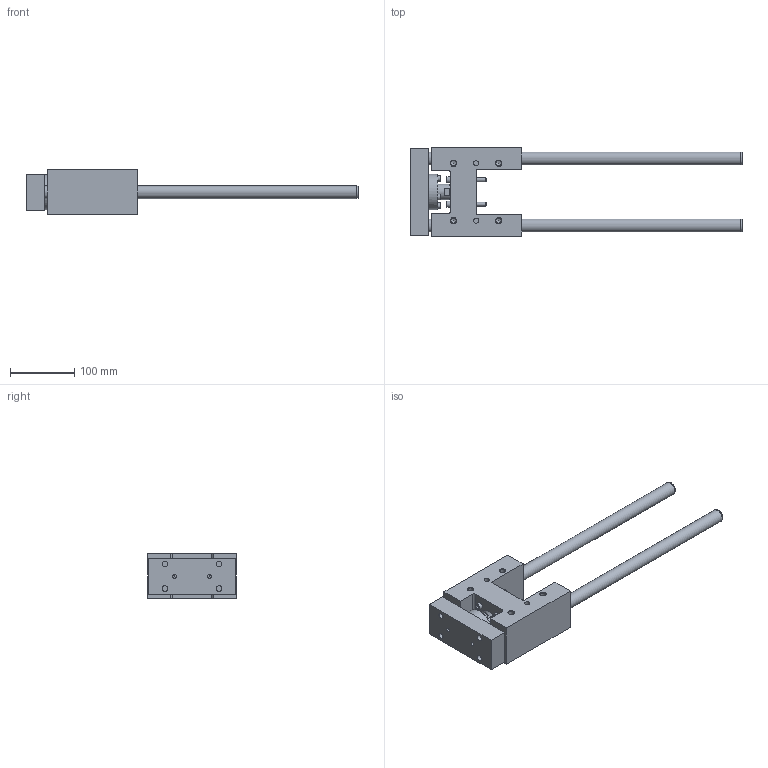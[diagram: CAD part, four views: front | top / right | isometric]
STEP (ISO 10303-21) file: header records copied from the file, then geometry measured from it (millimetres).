
FILE_DESCRIPTION( ( 'STEP AP214' ), '1' );
FILE_NAME( 'U:/Etudes/Top Solid/BIBLIO 3D AVM/TOP/PNEUMATIQUE/GUIDAGES/Type 32 (en H)/R_Renforcée/325R6_30.step', '2005-05-27T08:57:27', ( ' ' ), ( ' ' ), 'XStep 1.0', ' ', ' ' );
FILE_SCHEMA( ( 'automotive_design' ) );
Length unit declared in the file: metre
Products named in the file (2): 1; 2
Bounding box: 515 x 137 x 69 mm (x, y, z)
Volume: 1269790.4 mm3; surface area: 208530 mm2
Topology: 2 solids, 7 shells, 223 faces, 504 edges, 337 vertices
Faces by surface type: plane 128, cylinder 74, cone 21
Full cylindrical faces by diameter (mm): 5 x8, 6 x10, 6.5 x8, 6.647 x4, 8 x2, 8.376 x8, 8.5 x4, 9 x4, 10 x4, 10.2 x4, 10.647 x2, 15 x4, 20 x4, 24 x1, 26 x1, 34 x1, 35 x1, 37 x1, 55 x1
Entity records: 7481 total; most frequent: CARTESIAN_POINT 1145, DIRECTION 956, ORIENTED_EDGE 724, EDGE_LOOP 386, AXIS2_PLACEMENT_3D 377, EDGE_CURVE 362, FACE_OUTER_BOUND 295, VERTEX_POINT 294
